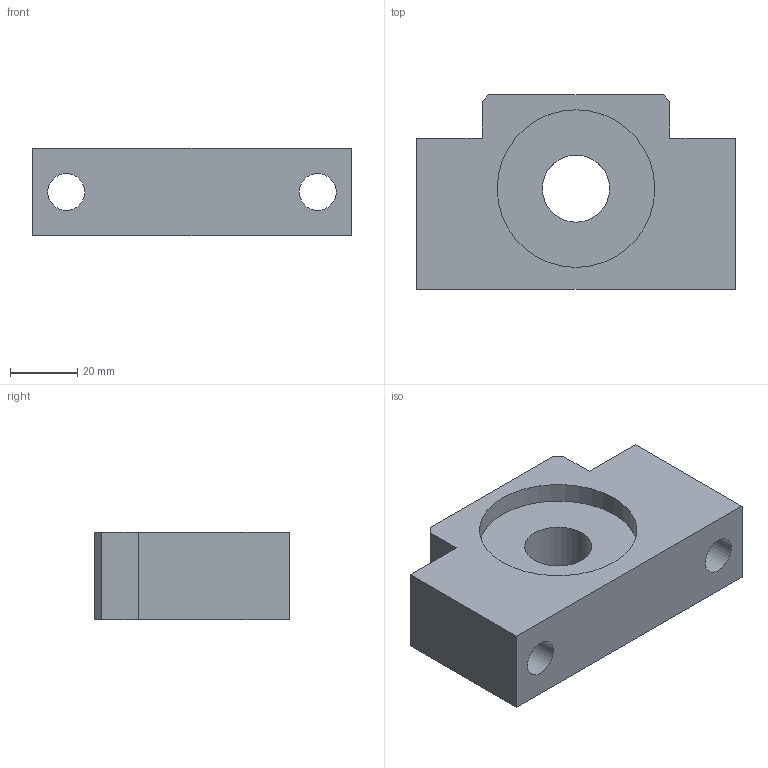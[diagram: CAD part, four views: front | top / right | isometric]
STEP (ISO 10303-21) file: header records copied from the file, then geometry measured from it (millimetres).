
FILE_DESCRIPTION(/* description */ (''),/* implementation_level */ '2;1');
FILE_NAME(/* name */ 'C:\Users\tenki620635\Desktop\官網\圖面\軸承座\3D\setp檔\AF20.stp',/* time_stamp */ '2020-11-20T17:29:04+08:00',/* author */ ('tenki620635'),/* organization */ (''),/* preprocessor_version */ 'ST-DEVELOPER v15.2',/* originating_system */ 'Autodesk Inventor 2014',/* authorisation */ '');
FILE_SCHEMA (('AUTOMOTIVE_DESIGN { 1 0 10303 214 3 1 1 }'));
Length unit declared in the file: millimetre
Products named in the file (1): AF20
Bounding box: 95 x 58 x 26 mm (x, y, z)
Volume: 92245 mm3; surface area: 23211.8 mm2
Topology: 1 solids, 1 shells, 23 faces, 51 edges, 34 vertices
Faces by surface type: plane 16, cylinder 7
Full cylindrical faces by diameter (mm): 11 x2, 17 x2, 20 x1, 47 x2
Entity records: 637 total; most frequent: DIRECTION 106, CARTESIAN_POINT 102, ORIENTED_EDGE 88, EDGE_CURVE 44, EDGE_LOOP 40, AXIS2_PLACEMENT_3D 38, VERTEX_POINT 34, LINE 30
